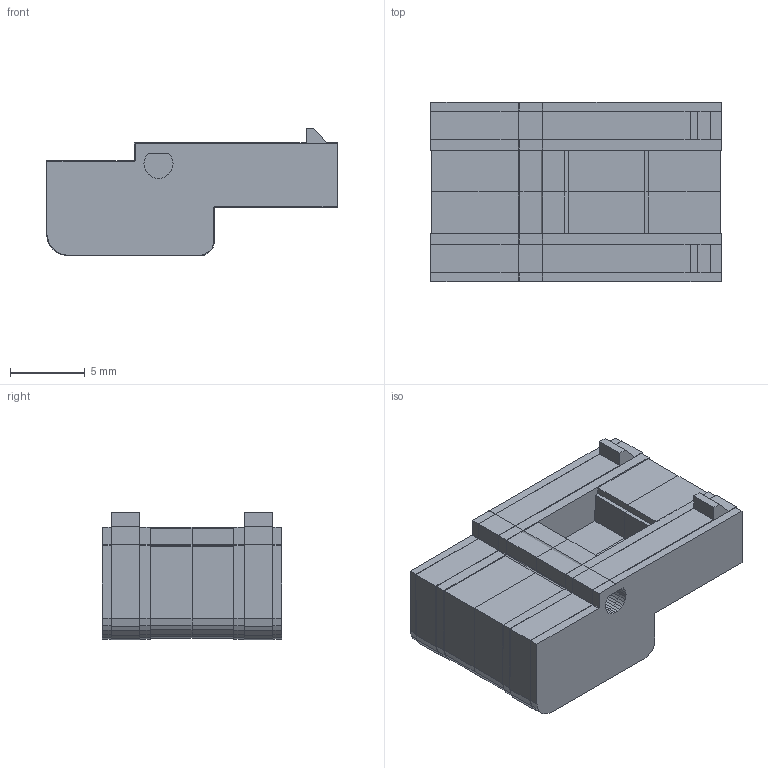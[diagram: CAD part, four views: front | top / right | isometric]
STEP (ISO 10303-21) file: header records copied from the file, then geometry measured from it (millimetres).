
FILE_DESCRIPTION(('AVO Performance Horse - montaje de la cincha (B-rep poliedrico)'),'2;1');
FILE_NAME('AVO_CINCHA_R6_9_balancin_Xneg_PETG','2026-11-15T12:00:00',('AVO Performance Horse'),('AVO Performance Horse'),'avo_cad.py','avo_cad.py (numpy)','');
FILE_SCHEMA(('AUTOMOTIVE_DESIGN { 1 0 10303 214 1 1 1 1 }'));
Length unit declared in the file: millimetre
Products named in the file (1): AVO_CINCHA_R6_9_balancin_Xneg_PETG
Bounding box: 19.5 x 12 x 8.56 mm (x, y, z)
Volume: 1208.1 mm3; surface area: 1009.8 mm2
Topology: 1 solids, 1 shells, 393 faces, 950 edges, 562 vertices
Faces by surface type: plane 393
Entity records: 7956 total; most frequent: ORIENTED_EDGE 1884, VECTOR 942, LINE 942, EDGE_CURVE 942, CARTESIAN_POINT 559, VERTEX_POINT 558, EDGE_LOOP 400, AXIS2_PLACEMENT_3D 393
